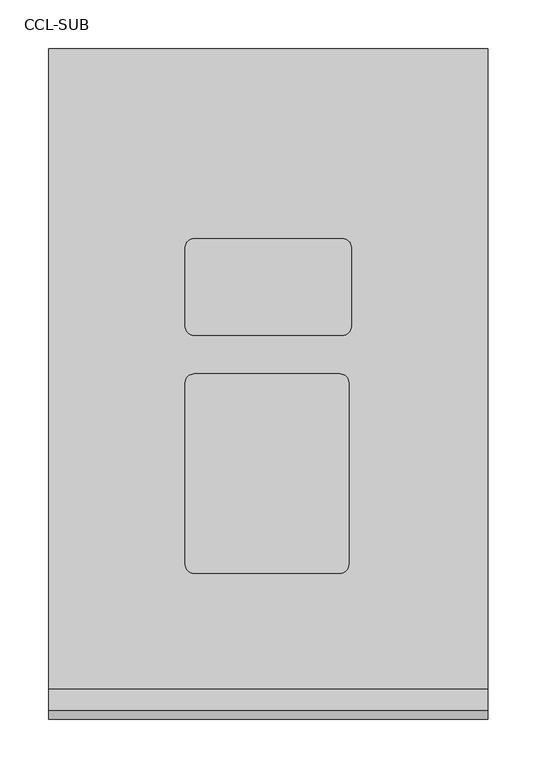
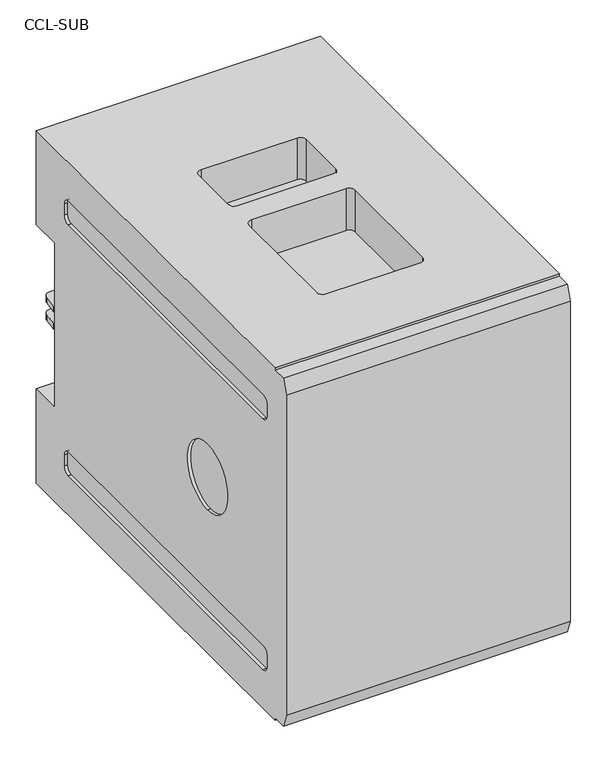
"""IFC4 building model written with IfcOpenShell, lengths in millimetres: proxy geometry, d&b CL-Series CCL-SUB : CCL-SUB."""

from ifc_helpers import new_model, si_unit, point, frame, frame_2d, origin, place, context, project, spatial, polyline, circle_curve, trimmed, segment, composite_curve, outline, extrude, source, transform, mapped, element, save
from ifc_brep_helpers import plane_surface, revolved_surface, advanced_brep


def ccl_sub_f7413ddf(model_context):
    return source(origin(), model_context, "Body", "SolidModel", [
        advanced_brep(
        [(2725.0, -36.5494027, 82.0239358), (2725.0, -28.1693754, 59.0), (2725.0, -4.1494027, 59.0), (2725.0, -4.1494027, 55.0), (2725.0, 649.4505973, 55.0), (2725.0, 649.4505973, 212.5), (2725.0, 599.4505973, 212.5), (2725.0, 599.4505973, 487.5), (2725.0, 649.4505973, 487.5), (2725.0, 649.4505973, 645.0), (2725.0, -5.5494027, 645.0), (2725.0, -5.5494027, 641.0), (2725.0, -28.1693754, 641.0), (2725.0, -36.5494027, 617.9760642), (2280.0, 561.7505973, 159.8), (2280.0, 572.2505973, 149.3), (2280.0, 572.2505973, 130.7), (2280.0, 561.7505973, 120.2), (2280.0, 27.1505973, 120.2), (2280.0, 16.6505973, 130.7), (2280.0, 16.6505973, 149.3), (2280.0, 27.1505973, 159.8), (2280.0, 179.4505973, 405.0), (2280.0, 179.4505973, 295.0), (2280.0, 572.2505973, 569.3), (2280.0, 572.2505973, 550.7), (2280.0, 561.7505973, 540.2), (2280.0, 27.1505973, 540.2), (2280.0, 16.6505973, 550.7), (2280.0, 16.6505973, 569.3), (2280.0, 27.1505973, 579.8), (2280.0, 561.7505973, 579.8), (2275.0, 649.4505973, 212.5), (2275.0, 649.4505973, 55.0), (2275.0, -5.5494027, 55.0), (2275.0, -5.5494027, 59.0), (2275.0, -28.1693754, 59.0), (2275.0, -36.5494027, 82.0239358), (2275.0, -36.5494027, 617.9760642), (2275.0, -28.1693754, 641.0), (2275.0, -5.5494027, 641.0), (2275.0, -5.5494027, 645.0), (2275.0, 649.4505973, 645.0), (2275.0, 649.4505973, 487.5), (2275.0, 599.4505973, 487.5), (2275.0, 599.4505973, 212.5), (2275.0, 572.2505973, 149.3), (2275.0, 561.7505973, 159.8), (2275.0, 27.1505973, 159.8), (2275.0, 16.6505973, 149.3), (2275.0, 16.6505973, 130.7), (2275.0, 27.1505973, 120.2), (2275.0, 561.7505973, 120.2), (2275.0, 572.2505973, 130.7), (2275.0, 179.4505973, 295.0), (2275.0, 179.4505973, 405.0), (2275.0, 572.2505973, 550.7), (2275.0, 572.2505973, 569.3), (2275.0, 561.7505973, 579.8), (2275.0, 27.1505973, 579.8), (2275.0, 16.6505973, 569.3), (2275.0, 16.6505973, 550.7), (2275.0, 27.1505973, 540.2), (2275.0, 561.7505973, 540.2), (2459.0, 644.4505973, 568.5), (2469.5, 644.4505973, 579.0), (2570.5, 644.4505973, 579.0), (2581.0, 644.4505973, 568.5), (2581.0, 644.4505973, 524.5), (2570.5, 644.4505973, 514.0), (2469.5, 644.4505973, 514.0), (2459.0, 644.4505973, 524.5), (2459.0, 644.4505973, 131.5), (2459.0, 644.4505973, 175.5), (2469.5, 644.4505973, 186.0), (2570.5, 644.4505973, 186.0), (2581.0, 644.4505973, 175.5), (2581.0, 644.4505973, 131.5), (2570.5, 644.4505973, 121.0), (2469.5, 644.4505973, 121.0), (2423.8, 455.2505973, 575.0), (2414.8, 446.2505973, 575.0), (2414.8, 365.2505973, 575.0), (2423.8, 356.2505973, 575.0), (2575.8, 356.2505973, 575.0), (2584.8, 365.2505973, 575.0), (2584.8, 446.2505973, 575.0), (2575.8, 455.2505973, 575.0), (2423.8, 316.7505973, 575.0), (2414.8, 307.7505973, 575.0), (2414.8, 121.7505973, 575.0), (2423.8, 112.7505973, 575.0), (2573.3, 112.7505973, 575.0), (2582.3, 121.7505973, 575.0), (2582.3, 307.7505973, 575.0), (2573.3, 316.7505973, 575.0), (2469.5, 649.4505973, 579.0), (2459.0, 649.4505973, 568.5), (2459.0, 649.4505973, 524.5), (2469.5, 649.4505973, 514.0), (2570.5, 649.4505973, 514.0), (2581.0, 649.4505973, 524.5), (2581.0, 649.4505973, 568.5), (2570.5, 649.4505973, 579.0), (2280.0, -5.5494027, 59.0), (2280.0, -5.5494027, 55.0), (2280.0, -4.1494027, 55.0), (2280.0, -4.1494027, 59.0), (2585.0, 599.4505973, 475.0), (2335.0, 599.4505973, 475.0), (2322.0, 599.4505973, 462.0), (2322.0, 599.4505973, 394.3424624), (2395.8595546, 599.4505973, 374.5518543), (2598.0, 599.4505973, 374.5518543), (2598.0, 599.4505973, 462.0), (2322.0, 599.4505973, 238.0), (2335.0, 599.4505973, 225.0), (2585.0, 599.4505973, 225.0), (2598.0, 599.4505973, 238.0), (2598.0, 599.4505973, 325.4481457), (2395.8595546, 599.4505973, 325.4481457), (2322.0, 599.4505973, 305.6575376), (2687.3293714, 599.4505973, 399.4918854), (2694.0, 599.4505973, 408.1852178), (2694.0, 599.4505973, 467.0), (2685.0, 599.4505973, 476.0), (2610.0, 599.4505973, 476.0), (2601.0, 599.4505973, 467.0), (2601.0, 599.4505973, 388.0890284), (2612.3293714, 599.4505973, 379.3956959), (2687.3293714, 599.4505973, 300.5081146), (2612.3293714, 599.4505973, 320.6043041), (2601.0, 599.4505973, 311.9109716), (2601.0, 599.4505973, 233.0), (2610.0, 599.4505973, 224.0), (2685.0, 599.4505973, 224.0), (2694.0, 599.4505973, 233.0), (2694.0, 599.4505973, 291.8147822), (2459.0, 649.4505973, 175.5), (2459.0, 649.4505973, 131.5), (2469.5, 649.4505973, 121.0), (2570.5, 649.4505973, 121.0), (2581.0, 649.4505973, 131.5), (2581.0, 649.4505973, 175.5), (2570.5, 649.4505973, 186.0), (2469.5, 649.4505973, 186.0), (2414.8, 446.2505973, 125.0), (2423.8, 455.2505973, 125.0), (2575.8, 455.2505973, 125.0), (2584.8, 446.2505973, 125.0), (2584.8, 365.2505973, 125.0), (2575.8, 356.2505973, 125.0), (2423.8, 356.2505973, 125.0), (2414.8, 365.2505973, 125.0), (2414.8, 307.7505973, 125.0), (2423.8, 316.7505973, 125.0), (2573.3, 316.7505973, 125.0), (2582.3, 307.7505973, 125.0), (2582.3, 121.7505973, 125.0), (2573.3, 112.7505973, 125.0), (2423.8, 112.7505973, 125.0), (2414.8, 121.7505973, 125.0), (2414.8, 446.2505973, 645.0), (2423.8, 455.2505973, 645.0), (2575.8, 455.2505973, 645.0), (2584.8, 446.2505973, 645.0), (2584.8, 365.2505973, 645.0), (2575.8, 356.2505973, 645.0), (2423.8, 356.2505973, 645.0), (2414.8, 365.2505973, 645.0), (2414.8, 307.7505973, 645.0), (2423.8, 316.7505973, 645.0), (2573.3, 316.7505973, 645.0), (2582.3, 307.7505973, 645.0), (2582.3, 121.7505973, 645.0), (2573.3, 112.7505973, 645.0), (2423.8, 112.7505973, 645.0), (2414.8, 121.7505973, 645.0), (2414.8, 446.2505973, 55.0), (2414.8, 365.2505973, 55.0), (2423.8, 356.2505973, 55.0), (2575.8, 356.2505973, 55.0), (2584.8, 365.2505973, 55.0), (2584.8, 446.2505973, 55.0), (2575.8, 455.2505973, 55.0), (2423.8, 455.2505973, 55.0), (2414.8, 307.7505973, 55.0), (2414.8, 121.7505973, 55.0), (2423.8, 112.7505973, 55.0), (2573.3, 112.7505973, 55.0), (2582.3, 121.7505973, 55.0), (2582.3, 307.7505973, 55.0), (2573.3, 316.7505973, 55.0), (2423.8, 316.7505973, 55.0), (2335.0, 594.4505973, 475.0), (2585.0, 594.4505973, 475.0), (2598.0, 594.4505973, 462.0), (2598.0, 594.4505973, 374.5518543), (2395.8595546, 594.4505973, 374.5518543), (2322.0, 594.4505973, 394.3424624), (2322.0, 594.4505973, 462.0), (2335.0, 594.4505973, 225.0), (2322.0, 594.4505973, 238.0), (2322.0, 594.4505973, 305.6575376), (2395.8595546, 594.4505973, 325.4481457), (2598.0, 594.4505973, 325.4481457), (2598.0, 594.4505973, 238.0), (2585.0, 594.4505973, 225.0), (2694.0, 594.4505973, 408.1852178), (2687.3293714, 594.4505973, 399.4918854), (2612.3293714, 594.4505973, 379.3956959), (2601.0, 594.4505973, 388.0890284), (2601.0, 594.4505973, 467.0), (2610.0, 594.4505973, 476.0), (2685.0, 594.4505973, 476.0), (2694.0, 594.4505973, 467.0), (2612.3293714, 594.4505973, 320.6043041), (2687.3293714, 594.4505973, 300.5081146), (2694.0, 594.4505973, 291.8147822), (2694.0, 594.4505973, 233.0), (2685.0, 594.4505973, 224.0), (2610.0, 594.4505973, 224.0), (2601.0, 594.4505973, 233.0), (2601.0, 594.4505973, 311.9109716)],
        [
            (0, 1),
            (1, 2),
            (2, 3),
            (3, 4),
            (4, 5),
            (5, 6),
            (6, 7),
            (7, 8),
            (8, 9),
            (9, 10),
            (10, 11),
            (11, 12),
            (12, 13),
            (13, 0),
            (14, 15, circle_curve(frame((2280.0, 561.7505973, 149.3), z_axis=(-1.0, 0.0, 0.0), x_axis=(0.0, 1.0, 0.0)), 10.5)),
            (15, 16),
            (16, 17, circle_curve(frame((2280.0, 561.7505973, 130.7), z_axis=(-1.0, 0.0, 0.0), x_axis=(0.0, 0.0, 1.0)), 10.5)),
            (17, 18),
            (18, 19, circle_curve(frame((2280.0, 27.1505973, 130.7), z_axis=(-1.0, 0.0, 0.0), x_axis=(0.0, 1.0, 0.0)), 10.5)),
            (19, 20),
            (20, 21, circle_curve(frame((2280.0, 27.1505973, 149.3), z_axis=(-1.0, 0.0, 0.0), x_axis=(0.0, 1.0, 0.0)), 10.5)),
            (21, 14),
            (22, 23, circle_curve(frame((2280.0, 179.4505973, 350.0), z_axis=(-1.0, 0.0, 0.0), x_axis=(0.0, 0.0, 1.0)), 55.0)),
            (23, 22, circle_curve(frame((2280.0, 179.4505973, 350.0), z_axis=(-1.0, 0.0, 0.0), x_axis=(0.0, 0.0, 1.0)), 55.0)),
            (24, 25),
            (25, 26, circle_curve(frame((2280.0, 561.7505973, 550.7), z_axis=(-1.0, 0.0, 0.0), x_axis=(0.0, 1.0, 0.0)), 10.5)),
            (26, 27),
            (27, 28, circle_curve(frame((2280.0, 27.1505973, 550.7), z_axis=(-1.0, 0.0, 0.0), x_axis=(0.0, 1.0, 0.0)), 10.5)),
            (28, 29),
            (29, 30, circle_curve(frame((2280.0, 27.1505973, 569.3), z_axis=(-1.0, 0.0, 0.0), x_axis=(0.0, 1.0, 0.0)), 10.5)),
            (30, 31),
            (31, 24, circle_curve(frame((2280.0, 561.7505973, 569.3), z_axis=(-1.0, 0.0, 0.0), x_axis=(0.0, 0.0, -1.0)), 10.5)),
            (32, 33),
            (33, 34),
            (34, 35),
            (35, 36),
            (36, 37),
            (37, 38),
            (38, 39),
            (39, 40),
            (40, 41),
            (41, 42),
            (42, 43),
            (43, 44),
            (44, 45),
            (45, 32),
            (46, 47, circle_curve(frame((2275.0, 561.7505973, 149.3), z_axis=(1.0, 0.0, 0.0), x_axis=(0.0, 1.0, 0.0)), 10.5)),
            (47, 48),
            (48, 49, circle_curve(frame((2275.0, 27.1505973, 149.3), z_axis=(1.0, 0.0, 0.0), x_axis=(0.0, 1.0, 0.0)), 10.5)),
            (49, 50),
            (50, 51, circle_curve(frame((2275.0, 27.1505973, 130.7), z_axis=(1.0, 0.0, 0.0), x_axis=(0.0, 1.0, 0.0)), 10.5)),
            (51, 52),
            (52, 53, circle_curve(frame((2275.0, 561.7505973, 130.7), z_axis=(1.0, 0.0, 0.0), x_axis=(0.0, 0.0, 1.0)), 10.5)),
            (53, 46),
            (54, 55, circle_curve(frame((2275.0, 179.4505973, 350.0), z_axis=(1.0, 0.0, 0.0), x_axis=(0.0, 0.0, 1.0)), 55.0)),
            (55, 54, circle_curve(frame((2275.0, 179.4505973, 350.0), z_axis=(1.0, 0.0, 0.0), x_axis=(0.0, 0.0, 1.0)), 55.0)),
            (56, 57),
            (57, 58, circle_curve(frame((2275.0, 561.7505973, 569.3), z_axis=(1.0, 0.0, 0.0), x_axis=(0.0, 0.0, -1.0)), 10.5)),
            (58, 59),
            (59, 60, circle_curve(frame((2275.0, 27.1505973, 569.3), z_axis=(1.0, 0.0, 0.0), x_axis=(0.0, 1.0, 0.0)), 10.5)),
            (60, 61),
            (61, 62, circle_curve(frame((2275.0, 27.1505973, 550.7), z_axis=(1.0, 0.0, 0.0), x_axis=(0.0, 1.0, 0.0)), 10.5)),
            (62, 63),
            (63, 56, circle_curve(frame((2275.0, 561.7505973, 550.7), z_axis=(1.0, 0.0, 0.0), x_axis=(0.0, 1.0, 0.0)), 10.5)),
            (46, 15),
            (14, 47),
            (21, 48),
            (20, 49),
            (19, 50),
            (18, 51),
            (17, 52),
            (53, 16),
            (64, 65, circle_curve(frame((2469.5, 644.4505973, 568.5), z_axis=(0.0, 1.0, 0.0), x_axis=(0.0, 0.0, 1.0)), 10.5)),
            (65, 66),
            (66, 67, circle_curve(frame((2570.5, 644.4505973, 568.5), z_axis=(0.0, 1.0, 0.0), x_axis=(0.0, 0.0, 1.0)), 10.5)),
            (67, 68),
            (68, 69, circle_curve(frame((2570.5, 644.4505973, 524.5), z_axis=(0.0, 1.0, 0.0), x_axis=(0.0, 0.0, 1.0)), 10.5)),
            (69, 70),
            (70, 71, circle_curve(frame((2469.5, 644.4505973, 524.5), z_axis=(0.0, 1.0, 0.0), x_axis=(0.0, 0.0, 1.0)), 10.5)),
            (71, 64),
            (72, 73),
            (73, 74, circle_curve(frame((2469.5, 644.4505973, 175.5), z_axis=(0.0, 1.0, 0.0), x_axis=(0.0, 0.0, -1.0)), 10.5)),
            (74, 75),
            (75, 76, circle_curve(frame((2570.5, 644.4505973, 175.5), z_axis=(0.0, 1.0, 0.0), x_axis=(0.0, 0.0, -1.0)), 10.5)),
            (76, 77),
            (77, 78, circle_curve(frame((2570.5, 644.4505973, 131.5), z_axis=(0.0, 1.0, 0.0), x_axis=(0.0, 0.0, -1.0)), 10.5)),
            (78, 79),
            (79, 72, circle_curve(frame((2469.5, 644.4505973, 131.5), z_axis=(0.0, 1.0, 0.0), x_axis=(0.0, 0.0, -1.0)), 10.5)),
            (13, 38),
            (37, 0),
            (80, 81, circle_curve(frame((2423.8, 446.2505973, 575.0), z_axis=(0.0, 0.0, 1.0), x_axis=(0.0, 1.0, 0.0)), 9.0)),
            (81, 82),
            (82, 83, circle_curve(frame((2423.8, 365.2505973, 575.0), z_axis=(0.0, 0.0, 1.0), x_axis=(0.0, 1.0, 0.0)), 9.0)),
            (83, 84),
            (84, 85, circle_curve(frame((2575.8, 365.2505973, 575.0), z_axis=(0.0, 0.0, 1.0), x_axis=(0.0, 1.0, 0.0)), 9.0)),
            (85, 86),
            (86, 87, circle_curve(frame((2575.8, 446.2505973, 575.0), z_axis=(0.0, 0.0, 1.0), x_axis=(0.0, 1.0, 0.0)), 9.0)),
            (87, 80),
            (88, 89, circle_curve(frame((2423.8, 307.7505973, 575.0), z_axis=(0.0, 0.0, 1.0), x_axis=(-1.0, 0.0, 0.0)), 9.0)),
            (89, 90),
            (90, 91, circle_curve(frame((2423.8, 121.7505973, 575.0), z_axis=(0.0, 0.0, 1.0), x_axis=(-1.0, 0.0, 0.0)), 9.0)),
            (91, 92),
            (92, 93, circle_curve(frame((2573.3, 121.7505973, 575.0), z_axis=(0.0, 0.0, 1.0), x_axis=(1.0, 0.0, 0.0)), 9.0)),
            (93, 94),
            (94, 95, circle_curve(frame((2573.3, 307.7505973, 575.0), z_axis=(0.0, 0.0, 1.0), x_axis=(1.0, 0.0, 0.0)), 9.0)),
            (95, 88),
            (8, 43),
            (42, 9),
            (96, 97, circle_curve(frame((2469.5, 649.4505973, 568.5), z_axis=(0.0, -1.0, 0.0), x_axis=(0.0, 0.0, 1.0)), 10.5)),
            (97, 98),
            (98, 99, circle_curve(frame((2469.5, 649.4505973, 524.5), z_axis=(0.0, -1.0, 0.0), x_axis=(0.0, 0.0, 1.0)), 10.5)),
            (99, 100),
            (100, 101, circle_curve(frame((2570.5, 649.4505973, 524.5), z_axis=(0.0, -1.0, 0.0), x_axis=(0.0, 0.0, 1.0)), 10.5)),
            (101, 102),
            (102, 103, circle_curve(frame((2570.5, 649.4505973, 568.5), z_axis=(0.0, -1.0, 0.0), x_axis=(0.0, 0.0, 1.0)), 10.5)),
            (103, 96),
            (54, 23),
            (22, 55),
            (104, 105),
            (105, 106),
            (106, 107),
            (107, 104),
            (104, 35),
            (34, 105),
            (107, 2),
            (1, 36),
            (56, 25),
            (24, 57),
            (31, 58),
            (30, 59),
            (29, 60),
            (28, 61),
            (27, 62),
            (26, 63),
            (12, 39),
            (11, 40),
            (7, 44),
            (6, 45),
            (108, 109),
            (109, 110, circle_curve(frame((2335.0, 599.4505973, 462.0), z_axis=(0.0, -1.0, 0.0), x_axis=(0.0, 0.0, 1.0)), 13.0)),
            (110, 111),
            (111, 112),
            (112, 113),
            (113, 114),
            (114, 108, circle_curve(frame((2585.0, 599.4505973, 462.0), z_axis=(0.0, -1.0, 0.0), x_axis=(0.0, 0.0, 1.0)), 13.0)),
            (115, 116, circle_curve(frame((2335.0, 599.4505973, 238.0), z_axis=(0.0, -1.0, 0.0), x_axis=(0.0, 0.0, -1.0)), 13.0)),
            (116, 117),
            (117, 118, circle_curve(frame((2585.0, 599.4505973, 238.0), z_axis=(0.0, -1.0, 0.0), x_axis=(0.0, 0.0, -1.0)), 13.0)),
            (118, 119),
            (119, 120),
            (120, 121),
            (121, 115),
            (122, 123, circle_curve(frame((2685.0, 599.4505973, 408.1852178), z_axis=(0.0, -1.0, 0.0), x_axis=(0.0, 0.0, 1.0)), 9.0)),
            (123, 124),
            (124, 125, circle_curve(frame((2685.0, 599.4505973, 467.0), z_axis=(0.0, -1.0, 0.0), x_axis=(0.0, 0.0, 1.0)), 9.0)),
            (125, 126),
            (126, 127, circle_curve(frame((2610.0, 599.4505973, 467.0), z_axis=(0.0, -1.0, 0.0), x_axis=(0.0, 0.0, 1.0)), 9.0)),
            (127, 128),
            (128, 129, circle_curve(frame((2610.0, 599.4505973, 388.0890284), z_axis=(0.0, -1.0, 0.0), x_axis=(0.0, 0.0, 1.0)), 9.0)),
            (129, 122),
            (130, 131),
            (131, 132, circle_curve(frame((2610.0, 599.4505973, 311.9109716), z_axis=(0.0, -1.0, 0.0), x_axis=(0.0, 0.0, -1.0)), 9.0)),
            (132, 133),
            (133, 134, circle_curve(frame((2610.0, 599.4505973, 233.0), z_axis=(0.0, -1.0, 0.0), x_axis=(0.0, 0.0, -1.0)), 9.0)),
            (134, 135),
            (135, 136, circle_curve(frame((2685.0, 599.4505973, 233.0), z_axis=(0.0, -1.0, 0.0), x_axis=(0.0, 0.0, -1.0)), 9.0)),
            (136, 137),
            (137, 130, circle_curve(frame((2685.0, 599.4505973, 291.8147822), z_axis=(0.0, -1.0, 0.0), x_axis=(0.0, 0.0, -1.0)), 9.0)),
            (5, 32),
            (4, 33),
            (138, 139),
            (139, 140, circle_curve(frame((2469.5, 649.4505973, 131.5), z_axis=(0.0, -1.0, 0.0), x_axis=(0.0, 0.0, -1.0)), 10.5)),
            (140, 141),
            (141, 142, circle_curve(frame((2570.5, 649.4505973, 131.5), z_axis=(0.0, -1.0, 0.0), x_axis=(0.0, 0.0, -1.0)), 10.5)),
            (142, 143),
            (143, 144, circle_curve(frame((2570.5, 649.4505973, 175.5), z_axis=(0.0, -1.0, 0.0), x_axis=(0.0, 0.0, -1.0)), 10.5)),
            (144, 145),
            (145, 138, circle_curve(frame((2469.5, 649.4505973, 175.5), z_axis=(0.0, -1.0, 0.0), x_axis=(0.0, 0.0, -1.0)), 10.5)),
            (146, 147, circle_curve(frame((2423.8, 446.2505973, 125.0), z_axis=(0.0, 0.0, -1.0), x_axis=(0.0, 1.0, 0.0)), 9.0)),
            (147, 148),
            (148, 149, circle_curve(frame((2575.8, 446.2505973, 125.0), z_axis=(0.0, 0.0, -1.0), x_axis=(0.0, 1.0, 0.0)), 9.0)),
            (149, 150),
            (150, 151, circle_curve(frame((2575.8, 365.2505973, 125.0), z_axis=(0.0, 0.0, -1.0), x_axis=(0.0, 1.0, 0.0)), 9.0)),
            (151, 152),
            (152, 153, circle_curve(frame((2423.8, 365.2505973, 125.0), z_axis=(0.0, 0.0, -1.0), x_axis=(0.0, 1.0, 0.0)), 9.0)),
            (153, 146),
            (154, 155, circle_curve(frame((2423.8, 307.7505973, 125.0), z_axis=(0.0, 0.0, -1.0), x_axis=(-1.0, 0.0, 0.0)), 9.0)),
            (155, 156),
            (156, 157, circle_curve(frame((2573.3, 307.7505973, 125.0), z_axis=(0.0, 0.0, -1.0), x_axis=(1.0, 0.0, 0.0)), 9.0)),
            (157, 158),
            (158, 159, circle_curve(frame((2573.3, 121.7505973, 125.0), z_axis=(0.0, 0.0, -1.0), x_axis=(1.0, 0.0, 0.0)), 9.0)),
            (159, 160),
            (160, 161, circle_curve(frame((2423.8, 121.7505973, 125.0), z_axis=(0.0, 0.0, -1.0), x_axis=(-1.0, 0.0, 0.0)), 9.0)),
            (161, 154),
            (41, 10),
            (162, 163, circle_curve(frame((2423.8, 446.2505973, 645.0), z_axis=(0.0, 0.0, -1.0), x_axis=(0.0, 1.0, 0.0)), 9.0)),
            (163, 164),
            (164, 165, circle_curve(frame((2575.8, 446.2505973, 645.0), z_axis=(0.0, 0.0, -1.0), x_axis=(0.0, 1.0, 0.0)), 9.0)),
            (165, 166),
            (166, 167, circle_curve(frame((2575.8, 365.2505973, 645.0), z_axis=(0.0, 0.0, -1.0), x_axis=(0.0, 1.0, 0.0)), 9.0)),
            (167, 168),
            (168, 169, circle_curve(frame((2423.8, 365.2505973, 645.0), z_axis=(0.0, 0.0, -1.0), x_axis=(0.0, 1.0, 0.0)), 9.0)),
            (169, 162),
            (170, 171, circle_curve(frame((2423.8, 307.7505973, 645.0), z_axis=(0.0, 0.0, -1.0), x_axis=(-1.0, 0.0, 0.0)), 9.0)),
            (171, 172),
            (172, 173, circle_curve(frame((2573.3, 307.7505973, 645.0), z_axis=(0.0, 0.0, -1.0), x_axis=(1.0, 0.0, 0.0)), 9.0)),
            (173, 174),
            (174, 175, circle_curve(frame((2573.3, 121.7505973, 645.0), z_axis=(0.0, 0.0, -1.0), x_axis=(1.0, 0.0, 0.0)), 9.0)),
            (175, 176),
            (176, 177, circle_curve(frame((2423.8, 121.7505973, 645.0), z_axis=(0.0, 0.0, -1.0), x_axis=(-1.0, 0.0, 0.0)), 9.0)),
            (177, 170),
            (162, 81),
            (80, 163),
            (87, 164),
            (86, 165),
            (85, 166),
            (84, 167),
            (83, 168),
            (82, 169),
            (170, 89),
            (88, 171),
            (95, 172),
            (94, 173),
            (93, 174),
            (92, 175),
            (91, 176),
            (90, 177),
            (3, 106),
            (178, 179),
            (179, 180, circle_curve(frame((2423.8, 365.2505973, 55.0), z_axis=(0.0, 0.0, 1.0), x_axis=(0.0, 1.0, 0.0)), 9.0)),
            (180, 181),
            (181, 182, circle_curve(frame((2575.8, 365.2505973, 55.0), z_axis=(0.0, 0.0, 1.0), x_axis=(0.0, 1.0, 0.0)), 9.0)),
            (182, 183),
            (183, 184, circle_curve(frame((2575.8, 446.2505973, 55.0), z_axis=(0.0, 0.0, 1.0), x_axis=(0.0, 1.0, 0.0)), 9.0)),
            (184, 185),
            (185, 178, circle_curve(frame((2423.8, 446.2505973, 55.0), z_axis=(0.0, 0.0, 1.0), x_axis=(0.0, 1.0, 0.0)), 9.0)),
            (186, 187),
            (187, 188, circle_curve(frame((2423.8, 121.7505973, 55.0), z_axis=(0.0, 0.0, 1.0), x_axis=(-1.0, 0.0, 0.0)), 9.0)),
            (188, 189),
            (189, 190, circle_curve(frame((2573.3, 121.7505973, 55.0), z_axis=(0.0, 0.0, 1.0), x_axis=(1.0, 0.0, 0.0)), 9.0)),
            (190, 191),
            (191, 192, circle_curve(frame((2573.3, 307.7505973, 55.0), z_axis=(0.0, 0.0, 1.0), x_axis=(1.0, 0.0, 0.0)), 9.0)),
            (192, 193),
            (193, 186, circle_curve(frame((2423.8, 307.7505973, 55.0), z_axis=(0.0, 0.0, 1.0), x_axis=(-1.0, 0.0, 0.0)), 9.0)),
            (185, 147),
            (146, 178),
            (184, 148),
            (183, 149),
            (182, 150),
            (181, 151),
            (180, 152),
            (179, 153),
            (193, 155),
            (154, 186),
            (192, 156),
            (191, 157),
            (190, 158),
            (189, 159),
            (188, 160),
            (187, 161),
            (64, 97),
            (96, 65),
            (103, 66),
            (102, 67),
            (101, 68),
            (100, 69),
            (99, 70),
            (98, 71),
            (72, 139),
            (138, 73),
            (145, 74),
            (144, 75),
            (143, 76),
            (142, 77),
            (141, 78),
            (140, 79),
            (194, 195),
            (195, 196, circle_curve(frame((2585.0, 594.4505973, 462.0), z_axis=(0.0, 1.0, 0.0), x_axis=(0.0, 0.0, 1.0)), 13.0)),
            (196, 197),
            (197, 198),
            (198, 199),
            (199, 200),
            (200, 194, circle_curve(frame((2335.0, 594.4505973, 462.0), z_axis=(0.0, 1.0, 0.0), x_axis=(0.0, 0.0, 1.0)), 13.0)),
            (201, 202, circle_curve(frame((2335.0, 594.4505973, 238.0), z_axis=(0.0, 1.0, 0.0), x_axis=(0.0, 0.0, -1.0)), 13.0)),
            (202, 203),
            (203, 204),
            (204, 205),
            (205, 206),
            (206, 207, circle_curve(frame((2585.0, 594.4505973, 238.0), z_axis=(0.0, 1.0, 0.0), x_axis=(0.0, 0.0, -1.0)), 13.0)),
            (207, 201),
            (208, 209, circle_curve(frame((2685.0, 594.4505973, 408.1852178), z_axis=(0.0, 1.0, 0.0), x_axis=(0.0, 0.0, 1.0)), 9.0)),
            (209, 210),
            (210, 211, circle_curve(frame((2610.0, 594.4505973, 388.0890284), z_axis=(0.0, 1.0, 0.0), x_axis=(0.0, 0.0, 1.0)), 9.0)),
            (211, 212),
            (212, 213, circle_curve(frame((2610.0, 594.4505973, 467.0), z_axis=(0.0, 1.0, 0.0), x_axis=(0.0, 0.0, 1.0)), 9.0)),
            (213, 214),
            (214, 215, circle_curve(frame((2685.0, 594.4505973, 467.0), z_axis=(0.0, 1.0, 0.0), x_axis=(0.0, 0.0, 1.0)), 9.0)),
            (215, 208),
            (216, 217),
            (217, 218, circle_curve(frame((2685.0, 594.4505973, 291.8147822), z_axis=(0.0, 1.0, 0.0), x_axis=(0.0, 0.0, -1.0)), 9.0)),
            (218, 219),
            (219, 220, circle_curve(frame((2685.0, 594.4505973, 233.0), z_axis=(0.0, 1.0, 0.0), x_axis=(0.0, 0.0, -1.0)), 9.0)),
            (220, 221),
            (221, 222, circle_curve(frame((2610.0, 594.4505973, 233.0), z_axis=(0.0, 1.0, 0.0), x_axis=(0.0, 0.0, -1.0)), 9.0)),
            (222, 223),
            (223, 216, circle_curve(frame((2610.0, 594.4505973, 311.9109716), z_axis=(0.0, 1.0, 0.0), x_axis=(0.0, 0.0, -1.0)), 9.0)),
            (194, 109),
            (108, 195),
            (114, 196),
            (113, 197),
            (112, 198),
            (111, 199),
            (110, 200),
            (201, 116),
            (115, 202),
            (121, 203),
            (120, 204),
            (119, 205),
            (118, 206),
            (117, 207),
            (208, 123),
            (122, 209),
            (129, 210),
            (128, 211),
            (127, 212),
            (126, 213),
            (125, 214),
            (124, 215),
            (216, 131),
            (130, 217),
            (137, 218),
            (136, 219),
            (135, 220),
            (134, 221),
            (133, 222),
            (132, 223),
        ],
        [
            plane_surface(frame((2725.0, 852.7005973, 575.0), z_axis=(1.0, 0.0, 0.0), x_axis=(0.0, -1.0, 0.0))),
            plane_surface(frame((2280.0, 852.7005973, 575.0), z_axis=(-1.0, 0.0, 0.0), x_axis=(0.0, 1.0, 0.0))),
            plane_surface(frame((2275.0, 649.4505973, -434.075233), z_axis=(-1.0, 0.0, 0.0), x_axis=(0.0, 0.0, -1.0))),
            revolved_surface(polyline([(2280.0, 572.2505973, 149.3), (2275.0, 572.2505973, 149.3)]), (2275.0, 561.7505973, 149.3), (1.0, 0.0, 0.0)),
            plane_surface(frame((2275.0, 561.7505973, 159.8), z_axis=(0.0, 0.0, -1.0), x_axis=(1.0, 0.0, 0.0))),
            revolved_surface(polyline([(2280.0, 37.6505973, 149.3), (2275.0, 37.6505973, 149.3)]), (2275.0, 27.1505973, 149.3), (1.0, 0.0, 0.0)),
            plane_surface(frame((2275.0, 16.6505973, 149.3), z_axis=(0.0, 1.0, 0.0), x_axis=(1.0, 0.0, 0.0))),
            revolved_surface(polyline([(2280.0, 37.6505973, 130.7), (2275.0, 37.6505973, 130.7)]), (2275.0, 27.1505973, 130.7), (1.0, 0.0, 0.0)),
            plane_surface(frame((2275.0, 27.1505973, 120.2), z_axis=(0.0, 0.0, 1.0), x_axis=(1.0, 0.0, 0.0))),
            plane_surface(frame((2275.0, 572.2505973, 130.7), z_axis=(0.0, -1.0, 0.0), x_axis=(1.0, 0.0, 0.0))),
            plane_surface(frame((2469.5, 644.4505973, 579.0), z_axis=(0.0, 1.0, 0.0), x_axis=(-1.0, 0.0, 0.0))),
            plane_surface(frame((2280.0, -36.5494027, 125.0), z_axis=(0.0, -1.0, 0.0), x_axis=(1.0, 0.0, 0.0))),
            plane_surface(frame((2280.0, -36.5494027, 575.0), z_axis=(0.0, 0.0, 1.0), x_axis=(1.0, 0.0, 0.0))),
            plane_surface(frame((2280.0, 649.4505973, 575.0), z_axis=(0.0, 1.0, 0.0), x_axis=(1.0, 0.0, 0.0))),
            revolved_surface(polyline([(2280.0, 179.4505973, 405.0), (2275.0, 179.4505973, 405.0)]), (2275.0, 179.4505973, 350.0), (1.0, 0.0, 0.0)),
            plane_surface(frame((2280.0, 649.4505973, -434.075233), z_axis=(1.0, 0.0, 0.0), x_axis=(0.0, 0.0, 1.0))),
            plane_surface(frame((2275.0, -5.5494027, 55.0), z_axis=(0.0, -1.0, 0.0), x_axis=(1.0, 0.0, 0.0))),
            plane_surface(frame((2275.0, -5.5494027, 59.0), z_axis=(0.0, 0.0, -1.0), x_axis=(1.0, 0.0, 0.0))),
            plane_surface(frame((2275.0, -28.1693754, 59.0), z_axis=(0.0, -0.9396926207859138, -0.3420201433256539), x_axis=(1.0, 0.0, 0.0))),
            revolved_surface(polyline([(2280.0, 561.7505973, 141.2), (2275.0, 561.7505973, 141.2)]), (2275.0, 561.7505973, 130.7), (1.0, 0.0, 0.0)),
            plane_surface(frame((2275.0, 572.2505973, 550.7), z_axis=(0.0, -1.0, 0.0), x_axis=(1.0, 0.0, 0.0))),
            revolved_surface(polyline([(2280.0, 561.7505973, 558.8), (2275.0, 561.7505973, 558.8)]), (2275.0, 561.7505973, 569.3), (1.0, 0.0, 0.0)),
            plane_surface(frame((2275.0, 561.7505973, 579.8), z_axis=(0.0, 0.0, -1.0), x_axis=(1.0, 0.0, 0.0))),
            revolved_surface(polyline([(2280.0, 37.6505973, 569.3), (2275.0, 37.6505973, 569.3)]), (2275.0, 27.1505973, 569.3), (1.0, 0.0, 0.0)),
            plane_surface(frame((2275.0, 16.6505973, 569.3), z_axis=(0.0, 1.0, 0.0), x_axis=(1.0, 0.0, 0.0))),
            revolved_surface(polyline([(2280.0, 37.6505973, 550.7), (2275.0, 37.6505973, 550.7)]), (2275.0, 27.1505973, 550.7), (1.0, 0.0, 0.0)),
            plane_surface(frame((2275.0, 27.1505973, 540.2), z_axis=(0.0, 0.0, 1.0), x_axis=(1.0, 0.0, 0.0))),
            revolved_surface(polyline([(2280.0, 572.2505973, 550.7), (2275.0, 572.2505973, 550.7)]), (2275.0, 561.7505973, 550.7), (1.0, 0.0, 0.0)),
            plane_surface(frame((2275.0, -36.5494027, 617.9760642), z_axis=(0.0, -0.9396926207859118, 0.3420201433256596), x_axis=(1.0, 0.0, 0.0))),
            plane_surface(frame((2275.0, -28.1693754, 641.0), z_axis=(0.0, 0.0, 1.0), x_axis=(1.0, 0.0, 0.0))),
            plane_surface(frame((2280.0, 649.4505973, 487.5), z_axis=(0.0, 0.0, -1.0), x_axis=(1.0, 0.0, 0.0))),
            plane_surface(frame((2280.0, 599.4505973, 487.5), z_axis=(0.0, 1.0, 0.0), x_axis=(1.0, 0.0, 0.0))),
            plane_surface(frame((2280.0, 599.4505973, 212.5), z_axis=(0.0, 0.0, 1.0), x_axis=(1.0, 0.0, 0.0))),
            plane_surface(frame((2280.0, 649.4505973, 212.5), z_axis=(0.0, 1.0, 0.0), x_axis=(1.0, 0.0, 0.0))),
            plane_surface(frame((2280.0, 649.4505973, 125.0), z_axis=(0.0, 0.0, -1.0), x_axis=(1.0, 0.0, 0.0))),
            plane_surface(frame((2280.0, 1093.4505973, 645.0), z_axis=(0.0, 0.0, 1.0), x_axis=(0.0, -1.0, 0.0))),
            plane_surface(frame((2725.0, -5.5494027, 575.0), z_axis=(0.0, -1.0, 0.0), x_axis=(0.0, 0.0, 1.0))),
            revolved_surface(polyline([(2423.8, 455.2505973, 645.0), (2423.8, 455.2505973, 575.0)]), (2423.8, 446.2505973, 645.0), (0.0, 0.0, 1.0)),
            plane_surface(frame((2575.8, 455.2505973, 575.0), z_axis=(0.0, -1.0, 0.0), x_axis=(0.0, 0.0, 1.0))),
            revolved_surface(polyline([(2575.8, 455.2505973, 645.0), (2575.8, 455.2505973, 575.0)]), (2575.8, 446.2505973, 645.0), (0.0, 0.0, 1.0)),
            plane_surface(frame((2584.8, 365.2505973, 575.0), z_axis=(-1.0, 0.0, 0.0), x_axis=(0.0, 0.0, 1.0))),
            revolved_surface(polyline([(2575.8, 374.2505973, 645.0), (2575.8, 374.2505973, 575.0)]), (2575.8, 365.2505973, 645.0), (0.0, 0.0, 1.0)),
            plane_surface(frame((2423.8, 356.2505973, 575.0), z_axis=(0.0, 1.0, 0.0), x_axis=(0.0, 0.0, 1.0))),
            revolved_surface(polyline([(2423.8, 374.2505973, 645.0), (2423.8, 374.2505973, 575.0)]), (2423.8, 365.2505973, 645.0), (0.0, 0.0, 1.0)),
            plane_surface(frame((2414.8, 446.2505973, 575.0), z_axis=(1.0, 0.0, 0.0), x_axis=(0.0, 0.0, 1.0))),
            revolved_surface(polyline([(2414.8, 307.7505973, 645.0), (2414.8, 307.7505973, 575.0)]), (2423.8, 307.7505973, 645.0), (0.0, 0.0, 1.0)),
            plane_surface(frame((2573.3, 316.7505973, 575.0), z_axis=(0.0, -1.0, 0.0), x_axis=(0.0, 0.0, 1.0))),
            revolved_surface(polyline([(2582.3, 307.7505973, 645.0), (2582.3, 307.7505973, 575.0)]), (2573.3, 307.7505973, 645.0), (0.0, 0.0, 1.0)),
            plane_surface(frame((2582.3, 121.7505973, 575.0), z_axis=(-1.0, 0.0, 0.0), x_axis=(0.0, 0.0, 1.0))),
            revolved_surface(polyline([(2582.3, 121.7505973, 645.0), (2582.3, 121.7505973, 575.0)]), (2573.3, 121.7505973, 645.0), (0.0, 0.0, 1.0)),
            plane_surface(frame((2423.8, 112.7505973, 575.0), z_axis=(0.0, 1.0, 0.0), x_axis=(0.0, 0.0, 1.0))),
            revolved_surface(polyline([(2414.8, 121.7505973, 645.0), (2414.8, 121.7505973, 575.0)]), (2423.8, 121.7505973, 645.0), (0.0, 0.0, 1.0)),
            plane_surface(frame((2414.8, 307.7505973, 575.0), z_axis=(1.0, 0.0, 0.0), x_axis=(0.0, 0.0, 1.0))),
            plane_surface(frame((2749.8, -4.1494027, 55.0), z_axis=(0.0, 0.0, -1.0), x_axis=(-1.0, 0.0, 0.0))),
            plane_surface(frame((2280.0, -4.1494027, 125.0), z_axis=(0.0, -1.0, 0.0), x_axis=(0.0, 0.0, -1.0))),
            revolved_surface(polyline([(2423.8, 455.2505973, 55.0), (2423.8, 455.2505973, 125.0)]), (2423.8, 446.2505973, 55.0), (0.0, 0.0, -1.0)),
            plane_surface(frame((2423.8, 455.2505973, 125.0), z_axis=(0.0, -1.0, 0.0), x_axis=(0.0, 0.0, -1.0))),
            revolved_surface(polyline([(2575.8, 455.2505973, 55.0), (2575.8, 455.2505973, 125.0)]), (2575.8, 446.2505973, 55.0), (0.0, 0.0, -1.0)),
            plane_surface(frame((2584.8, 446.2505973, 125.0), z_axis=(-1.0, 0.0, 0.0), x_axis=(0.0, 0.0, -1.0))),
            revolved_surface(polyline([(2575.8, 374.2505973, 55.0), (2575.8, 374.2505973, 125.0)]), (2575.8, 365.2505973, 55.0), (0.0, 0.0, -1.0)),
            plane_surface(frame((2575.8, 356.2505973, 125.0), z_axis=(0.0, 1.0, 0.0), x_axis=(0.0, 0.0, -1.0))),
            revolved_surface(polyline([(2423.8, 374.2505973, 55.0), (2423.8, 374.2505973, 125.0)]), (2423.8, 365.2505973, 55.0), (0.0, 0.0, -1.0)),
            plane_surface(frame((2414.8, 365.2505973, 125.0), z_axis=(1.0, 0.0, 0.0), x_axis=(0.0, 0.0, -1.0))),
            revolved_surface(polyline([(2414.8, 307.7505973, 55.0), (2414.8, 307.7505973, 125.0)]), (2423.8, 307.7505973, 55.0), (0.0, 0.0, -1.0)),
            plane_surface(frame((2423.8, 316.7505973, 125.0), z_axis=(0.0, -1.0, 0.0), x_axis=(0.0, 0.0, -1.0))),
            revolved_surface(polyline([(2582.3, 307.7505973, 55.0), (2582.3, 307.7505973, 125.0)]), (2573.3, 307.7505973, 55.0), (0.0, 0.0, -1.0)),
            plane_surface(frame((2582.3, 307.7505973, 125.0), z_axis=(-1.0, 0.0, 0.0), x_axis=(0.0, 0.0, -1.0))),
            revolved_surface(polyline([(2582.3, 121.7505973, 55.0), (2582.3, 121.7505973, 125.0)]), (2573.3, 121.7505973, 55.0), (0.0, 0.0, -1.0)),
            plane_surface(frame((2573.3, 112.7505973, 125.0), z_axis=(0.0, 1.0, 0.0), x_axis=(0.0, 0.0, -1.0))),
            revolved_surface(polyline([(2414.8, 121.7505973, 55.0), (2414.8, 121.7505973, 125.0)]), (2423.8, 121.7505973, 55.0), (0.0, 0.0, -1.0)),
            plane_surface(frame((2414.8, 121.7505973, 125.0), z_axis=(1.0, 0.0, 0.0), x_axis=(0.0, 0.0, -1.0))),
            revolved_surface(polyline([(2469.5, 649.4505973, 579.0), (2469.5, 644.4505973, 579.0)]), (2469.5, 644.4505973, 568.5), (0.0, 1.0, 0.0)),
            plane_surface(frame((2469.5, 649.4505973, 579.0), z_axis=(0.0, 0.0, -1.0), x_axis=(0.0, -1.0, 0.0))),
            revolved_surface(polyline([(2570.5, 649.4505973, 579.0), (2570.5, 644.4505973, 579.0)]), (2570.5, 644.4505973, 568.5), (0.0, 1.0, 0.0)),
            plane_surface(frame((2581.0, 649.4505973, 568.5), z_axis=(-1.0, 0.0, 0.0), x_axis=(0.0, -1.0, 0.0))),
            revolved_surface(polyline([(2570.5, 649.4505973, 535.0), (2570.5, 644.4505973, 535.0)]), (2570.5, 644.4505973, 524.5), (0.0, 1.0, 0.0)),
            plane_surface(frame((2570.5, 649.4505973, 514.0), z_axis=(0.0, 0.0, 1.0), x_axis=(0.0, -1.0, 0.0))),
            revolved_surface(polyline([(2469.5, 649.4505973, 535.0), (2469.5, 644.4505973, 535.0)]), (2469.5, 644.4505973, 524.5), (0.0, 1.0, 0.0)),
            plane_surface(frame((2459.0, 649.4505973, 524.5), z_axis=(1.0, 0.0, 0.0), x_axis=(0.0, -1.0, 0.0))),
            plane_surface(frame((2459.0, 649.4505973, 131.5), z_axis=(1.0, 0.0, 0.0), x_axis=(0.0, -1.0, 0.0))),
            revolved_surface(polyline([(2469.5, 649.4505973, 165.0), (2469.5, 644.4505973, 165.0)]), (2469.5, 649.4505973, 175.5), (0.0, 1.0, 0.0)),
            plane_surface(frame((2469.5, 649.4505973, 186.0), z_axis=(0.0, 0.0, -1.0), x_axis=(0.0, -1.0, 0.0))),
            revolved_surface(polyline([(2570.5, 649.4505973, 165.0), (2570.5, 644.4505973, 165.0)]), (2570.5, 649.4505973, 175.5), (0.0, 1.0, 0.0)),
            plane_surface(frame((2581.0, 649.4505973, 175.5), z_axis=(-1.0, 0.0, 0.0), x_axis=(0.0, -1.0, 0.0))),
            revolved_surface(polyline([(2570.5, 649.4505973, 121.0), (2570.5, 644.4505973, 121.0)]), (2570.5, 649.4505973, 131.5), (0.0, 1.0, 0.0)),
            plane_surface(frame((2570.5, 649.4505973, 121.0), z_axis=(0.0, 0.0, 1.0), x_axis=(0.0, -1.0, 0.0))),
            revolved_surface(polyline([(2469.5, 649.4505973, 121.0), (2469.5, 644.4505973, 121.0)]), (2469.5, 649.4505973, 131.5), (0.0, 1.0, 0.0)),
            plane_surface(frame((2685.0, 594.4505973, 475.0), z_axis=(0.0, 1.0, 0.0), x_axis=(-1.0, 0.0, 0.0))),
            plane_surface(frame((2335.0, 599.4505973, 475.0), z_axis=(0.0, 0.0, -1.0), x_axis=(0.0, -1.0, 0.0))),
            revolved_surface(polyline([(2585.0, 599.4505973, 475.0), (2585.0, 594.4505973, 475.0)]), (2585.0, 594.4505973, 462.0), (0.0, 1.0, 0.0)),
            plane_surface(frame((2598.0, 599.4505973, 462.0), z_axis=(-1.0, 0.0, 0.0), x_axis=(0.0, -1.0, 0.0))),
            plane_surface(frame((2598.0, 599.4505973, 374.5518543), z_axis=(0.0, 0.0, 1.0), x_axis=(0.0, -1.0, 0.0))),
            plane_surface(frame((2395.8595546, 599.4505973, 374.5518543), z_axis=(0.25881904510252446, 0.0, 0.9659258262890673), x_axis=(0.0, -1.0, 0.0))),
            plane_surface(frame((2322.0, 599.4505973, 394.3424624), z_axis=(1.0, 0.0, 0.0), x_axis=(0.0, -1.0, 0.0))),
            revolved_surface(polyline([(2335.0, 599.4505973, 475.0), (2335.0, 594.4505973, 475.0)]), (2335.0, 594.4505973, 462.0), (0.0, 1.0, 0.0)),
            revolved_surface(polyline([(2335.0, 599.4505973, 225.0), (2335.0, 594.4505973, 225.0)]), (2335.0, 599.4505973, 238.0), (0.0, 1.0, 0.0)),
            plane_surface(frame((2322.0, 599.4505973, 238.0), z_axis=(1.0, 0.0, 0.0), x_axis=(0.0, -1.0, 0.0))),
            plane_surface(frame((2322.0, 599.4505973, 305.6575376), z_axis=(0.25881904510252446, 0.0, -0.9659258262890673), x_axis=(0.0, -1.0, 0.0))),
            plane_surface(frame((2395.8595546, 599.4505973, 325.4481457), z_axis=(0.0, 0.0, -1.0), x_axis=(0.0, -1.0, 0.0))),
            plane_surface(frame((2598.0, 599.4505973, 325.4481457), z_axis=(-1.0, 0.0, 0.0), x_axis=(0.0, -1.0, 0.0))),
            revolved_surface(polyline([(2585.0, 599.4505973, 225.0), (2585.0, 594.4505973, 225.0)]), (2585.0, 599.4505973, 238.0), (0.0, 1.0, 0.0)),
            plane_surface(frame((2585.0, 599.4505973, 225.0), z_axis=(0.0, 0.0, 1.0), x_axis=(0.0, -1.0, 0.0))),
            revolved_surface(polyline([(2685.0, 599.4505973, 417.1852178), (2685.0, 594.4505973, 417.1852178)]), (2685.0, 599.4505973, 408.1852178), (0.0, 1.0, 0.0)),
            plane_surface(frame((2687.3293714, 599.4505973, 399.4918854), z_axis=(-0.25881904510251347, 0.0, 0.9659258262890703), x_axis=(0.0, -1.0, 0.0))),
            revolved_surface(polyline([(2610.0, 599.4505973, 397.0890284), (2610.0, 594.4505973, 397.0890284)]), (2610.0, 599.4505973, 388.0890284), (0.0, 1.0, 0.0)),
            plane_surface(frame((2601.0, 599.4505973, 388.0890284), z_axis=(1.0, 0.0, 0.0), x_axis=(0.0, -1.0, 0.0))),
            revolved_surface(polyline([(2610.0, 599.4505973, 476.0), (2610.0, 594.4505973, 476.0)]), (2610.0, 599.4505973, 467.0), (0.0, 1.0, 0.0)),
            plane_surface(frame((2610.0, 599.4505973, 476.0), z_axis=(0.0, 0.0, -1.0), x_axis=(0.0, -1.0, 0.0))),
            revolved_surface(polyline([(2685.0, 599.4505973, 476.0), (2685.0, 594.4505973, 476.0)]), (2685.0, 599.4505973, 467.0), (0.0, 1.0, 0.0)),
            plane_surface(frame((2694.0, 599.4505973, 467.0), z_axis=(-1.0, 0.0, 0.0), x_axis=(0.0, -1.0, 0.0))),
            plane_surface(frame((2612.3293714, 599.4505973, 320.6043041), z_axis=(-0.25881904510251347, 0.0, -0.9659258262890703), x_axis=(0.0, -1.0, 0.0))),
            revolved_surface(polyline([(2685.0, 599.4505973, 282.8147822), (2685.0, 594.4505973, 282.8147822)]), (2685.0, 599.4505973, 291.8147822), (0.0, 1.0, 0.0)),
            plane_surface(frame((2694.0, 599.4505973, 291.8147822), z_axis=(-1.0, 0.0, 0.0), x_axis=(0.0, -1.0, 0.0))),
            revolved_surface(polyline([(2685.0, 599.4505973, 224.0), (2685.0, 594.4505973, 224.0)]), (2685.0, 599.4505973, 233.0), (0.0, 1.0, 0.0)),
            plane_surface(frame((2685.0, 599.4505973, 224.0), z_axis=(0.0, 0.0, 1.0), x_axis=(0.0, -1.0, 0.0))),
            revolved_surface(polyline([(2610.0, 599.4505973, 224.0), (2610.0, 594.4505973, 224.0)]), (2610.0, 599.4505973, 233.0), (0.0, 1.0, 0.0)),
            plane_surface(frame((2601.0, 599.4505973, 233.0), z_axis=(1.0, 0.0, 0.0), x_axis=(0.0, -1.0, 0.0))),
            revolved_surface(polyline([(2610.0, 599.4505973, 302.9109716), (2610.0, 594.4505973, 302.9109716)]), (2610.0, 599.4505973, 311.9109716), (0.0, 1.0, 0.0)),
        ],
        [
            (0, [[1, 2, 3, 4, 5, 6, 7, 8, 9, 10, 11, 12, 13, 14]]),
            (1, [[15, 16, 17, 18, 19, 20, 21, 22]]),
            (1, [[23, 24]]),
            (1, [[25, 26, 27, 28, 29, 30, 31, 32]]),
            (2, [[33, 34, 35, 36, 37, 38, 39, 40, 41, 42, 43, 44, 45, 46], [47, 48, 49, 50, 51, 52, 53, 54], [55, 56], [57, 58, 59, 60, 61, 62, 63, 64]]),
            (3, [[-47, 65, -15, 66]]),
            (4, [[-48, -66, -22, 67]]),
            (5, [[-49, -67, -21, 68]]),
            (6, [[-50, -68, -20, 69]]),
            (7, [[-51, -69, -19, 70]]),
            (8, [[-52, -70, -18, 71]]),
            (9, [[-54, 72, -16, -65]]),
            (10, [[73, 74, 75, 76, 77, 78, 79, 80]]),
            (10, [[81, 82, 83, 84, 85, 86, 87, 88]]),
            (11, [[-14, 89, -38, 90]]),
            (12, [[91, 92, 93, 94, 95, 96, 97, 98]]),
            (12, [[99, 100, 101, 102, 103, 104, 105, 106]]),
            (13, [[-9, 107, -43, 108], [109, 110, 111, 112, 113, 114, 115, 116]]),
            (14, [[-55, 117, -23, 118]]),
            (14, [[-56, -118, -24, -117]]),
            (15, [[119, 120, 121, 122]]),
            (16, [[-119, 123, -35, 124]]),
            (17, [[-36, -123, -122, 125, -2, 126]]),
            (18, [[-90, -37, -126, -1]]),
            (19, [[-53, -71, -17, -72]]),
            (20, [[-57, 127, -25, 128]]),
            (21, [[-58, -128, -32, 129]]),
            (22, [[-59, -129, -31, 130]]),
            (23, [[-60, -130, -30, 131]]),
            (24, [[-61, -131, -29, 132]]),
            (25, [[-62, -132, -28, 133]]),
            (26, [[-63, -133, -27, 134]]),
            (27, [[-64, -134, -26, -127]]),
            (28, [[-39, -89, -13, 135]]),
            (29, [[-40, -135, -12, 136]]),
            (30, [[-8, 137, -44, -107]]),
            (31, [[-7, 138, -45, -137], [139, 140, 141, 142, 143, 144, 145], [146, 147, 148, 149, 150, 151, 152], [153, 154, 155, 156, 157, 158, 159, 160], [161, 162, 163, 164, 165, 166, 167, 168]]),
            (32, [[-6, 169, -46, -138]]),
            (33, [[-5, 170, -33, -169], [171, 172, 173, 174, 175, 176, 177, 178]]),
            (34, [[179, 180, 181, 182, 183, 184, 185, 186]]),
            (34, [[187, 188, 189, 190, 191, 192, 193, 194]]),
            (35, [[-10, -108, -42, 195], [196, 197, 198, 199, 200, 201, 202, 203], [204, 205, 206, 207, 208, 209, 210, 211]]),
            (36, [[-41, -136, -11, -195]]),
            (37, [[-196, 212, -91, 213]]),
            (38, [[-197, -213, -98, 214]]),
            (39, [[-198, -214, -97, 215]]),
            (40, [[-199, -215, -96, 216]]),
            (41, [[-200, -216, -95, 217]]),
            (42, [[-201, -217, -94, 218]]),
            (43, [[-202, -218, -93, 219]]),
            (44, [[-203, -219, -92, -212]]),
            (45, [[-204, 220, -99, 221]]),
            (46, [[-205, -221, -106, 222]]),
            (47, [[-206, -222, -105, 223]]),
            (48, [[-207, -223, -104, 224]]),
            (49, [[-208, -224, -103, 225]]),
            (50, [[-209, -225, -102, 226]]),
            (51, [[-210, -226, -101, 227]]),
            (52, [[-211, -227, -100, -220]]),
            (53, [[-4, 228, -120, -124, -34, -170], [229, 230, 231, 232, 233, 234, 235, 236], [237, 238, 239, 240, 241, 242, 243, 244]]),
            (54, [[-228, -3, -125, -121]]),
            (55, [[-236, 245, -179, 246]]),
            (56, [[-235, 247, -180, -245]]),
            (57, [[-234, 248, -181, -247]]),
            (58, [[-233, 249, -182, -248]]),
            (59, [[-232, 250, -183, -249]]),
            (60, [[-231, 251, -184, -250]]),
            (61, [[-230, 252, -185, -251]]),
            (62, [[-229, -246, -186, -252]]),
            (63, [[-244, 253, -187, 254]]),
            (64, [[-243, 255, -188, -253]]),
            (65, [[-242, 256, -189, -255]]),
            (66, [[-241, 257, -190, -256]]),
            (67, [[-240, 258, -191, -257]]),
            (68, [[-239, 259, -192, -258]]),
            (69, [[-238, 260, -193, -259]]),
            (70, [[-237, -254, -194, -260]]),
            (71, [[-73, 261, -109, 262]]),
            (72, [[-74, -262, -116, 263]]),
            (73, [[-75, -263, -115, 264]]),
            (74, [[-76, -264, -114, 265]]),
            (75, [[-77, -265, -113, 266]]),
            (76, [[-78, -266, -112, 267]]),
            (77, [[-79, -267, -111, 268]]),
            (78, [[-80, -268, -110, -261]]),
            (79, [[-81, 269, -171, 270]]),
            (80, [[-82, -270, -178, 271]]),
            (81, [[-83, -271, -177, 272]]),
            (82, [[-84, -272, -176, 273]]),
            (83, [[-85, -273, -175, 274]]),
            (84, [[-86, -274, -174, 275]]),
            (85, [[-87, -275, -173, 276]]),
            (86, [[-88, -276, -172, -269]]),
            (87, [[277, 278, 279, 280, 281, 282, 283]]),
            (87, [[284, 285, 286, 287, 288, 289, 290]]),
            (87, [[291, 292, 293, 294, 295, 296, 297, 298]]),
            (87, [[299, 300, 301, 302, 303, 304, 305, 306]]),
            (88, [[-277, 307, -139, 308]]),
            (89, [[-278, -308, -145, 309]]),
            (90, [[-279, -309, -144, 310]]),
            (91, [[-280, -310, -143, 311]]),
            (92, [[-281, -311, -142, 312]]),
            (93, [[-282, -312, -141, 313]]),
            (94, [[-283, -313, -140, -307]]),
            (95, [[-284, 314, -146, 315]]),
            (96, [[-285, -315, -152, 316]]),
            (97, [[-286, -316, -151, 317]]),
            (98, [[-287, -317, -150, 318]]),
            (99, [[-288, -318, -149, 319]]),
            (100, [[-289, -319, -148, 320]]),
            (101, [[-290, -320, -147, -314]]),
            (102, [[-291, 321, -153, 322]]),
            (103, [[-292, -322, -160, 323]]),
            (104, [[-293, -323, -159, 324]]),
            (105, [[-294, -324, -158, 325]]),
            (106, [[-295, -325, -157, 326]]),
            (107, [[-296, -326, -156, 327]]),
            (108, [[-297, -327, -155, 328]]),
            (109, [[-298, -328, -154, -321]]),
            (110, [[-299, 329, -161, 330]]),
            (111, [[-300, -330, -168, 331]]),
            (112, [[-301, -331, -167, 332]]),
            (113, [[-302, -332, -166, 333]]),
            (114, [[-303, -333, -165, 334]]),
            (115, [[-304, -334, -164, 335]]),
            (116, [[-305, -335, -163, 336]]),
            (117, [[-306, -336, -162, -329]]),
        ],
    ),
        extrude(outline(composite_curve([segment(polyline([(2282.8, 614.9505973), (2284.8447463, 638.3221547)]), True, "CONTINUOUS"), segment(trimmed(circle_curve(frame_2d((2294.8066933, 637.4505973)), 10.0), [point((2284.8447463, 638.3221547))], [point((2294.8066933, 647.4505973))], False, "CARTESIAN"), True, "CONTINUOUS"), segment(polyline([(2294.8066933, 647.4505973), (2512.7, 647.4505973), (2512.7, 645.7005973)]), True, "CONTINUOUS"), segment(trimmed(circle_curve(frame_2d((2518.2, 645.7005973)), 5.5), [point((2512.7, 645.7005973))], [point((2518.2, 640.2005973))], True, "CARTESIAN"), True, "CONTINUOUS"), segment(polyline([(2518.2, 640.2005973), (2550.2, 640.2005973)]), True, "CONTINUOUS"), segment(trimmed(circle_curve(frame_2d((2550.2, 740.2005973)), 100.0), [point((2550.2, 640.2005973))], [point((2587.5823153, 647.4505973))], True, "CARTESIAN"), True, "CONTINUOUS"), segment(polyline([(2587.5823153, 647.4505973), (2704.7933067, 647.4505973)]), True, "CONTINUOUS"), segment(trimmed(circle_curve(frame_2d((2704.7933067, 637.4505973)), 10.0), [point((2704.7933067, 647.4505973))], [point((2714.7552537, 638.3221547))], False, "CARTESIAN"), True, "CONTINUOUS"), segment(polyline([(2714.7552537, 638.3221547), (2716.8, 614.9505973), (2716.8, 607.9505973), (2282.8, 607.9505973), (2282.8, 614.9505973)]), True, "CONTINUOUS")], self_intersect=False), holes=[composite_curve([segment(trimmed(circle_curve(frame_2d((2318.8, 629.4505973)), 3.65), [point((2318.8, 633.1005973))], [point((2318.8, 625.8005973))], True, "CARTESIAN"), True, "CONTINUOUS"), segment(trimmed(circle_curve(frame_2d((2318.8, 629.4505973)), 3.65), [point((2318.8, 625.8005973))], [point((2318.8, 633.1005973))], True, "CARTESIAN"), True, "CONTINUOUS")], self_intersect=False), composite_curve([segment(trimmed(circle_curve(frame_2d((2330.0, 629.4505973)), 3.65), [point((2330.0, 633.1005973))], [point((2330.0, 625.8005973))], True, "CARTESIAN"), True, "CONTINUOUS"), segment(trimmed(circle_curve(frame_2d((2330.0, 629.4505973)), 3.65), [point((2330.0, 625.8005973))], [point((2330.0, 633.1005973))], True, "CARTESIAN"), True, "CONTINUOUS")], self_intersect=False), composite_curve([segment(trimmed(circle_curve(frame_2d((2531.2, 616.4505973)), 5.2059957), [point((2531.2, 621.656593))], [point((2531.2, 611.2446016))], True, "CARTESIAN"), True, "CONTINUOUS"), segment(trimmed(circle_curve(frame_2d((2531.2, 616.4505973)), 5.2059957), [point((2531.2, 611.2446016))], [point((2531.2, 621.656593))], True, "CARTESIAN"), True, "CONTINUOUS")], self_intersect=False), composite_curve([segment(trimmed(circle_curve(frame_2d((2691.2, 629.4505973)), 7.5), [point((2691.2, 636.9505973))], [point((2691.2, 621.9505973))], True, "CARTESIAN"), True, "CONTINUOUS"), segment(trimmed(circle_curve(frame_2d((2691.2, 629.4505973)), 7.5), [point((2691.2, 621.9505973))], [point((2691.2, 636.9505973))], True, "CARTESIAN"), True, "CONTINUOUS")], self_intersect=False)]), frame((0.0, 0.0, 359.75), z_axis=(0.0, 0.0, 1.0), x_axis=(1.0, 0.0, 0.0)), (0.0, 0.0, 1.0), 9.75),
        extrude(outline(composite_curve([segment(polyline([(2282.8, 614.9505973), (2284.8447463, 638.3221547)]), True, "CONTINUOUS"), segment(trimmed(circle_curve(frame_2d((2294.8066933, 637.4505973)), 10.0), [point((2284.8447463, 638.3221547))], [point((2294.8066933, 647.4505973))], False, "CARTESIAN"), True, "CONTINUOUS"), segment(polyline([(2294.8066933, 647.4505973), (2512.7, 647.4505973), (2512.7, 645.7005973)]), True, "CONTINUOUS"), segment(trimmed(circle_curve(frame_2d((2518.2, 645.7005973)), 5.5), [point((2512.7, 645.7005973))], [point((2518.2, 640.2005973))], True, "CARTESIAN"), True, "CONTINUOUS"), segment(polyline([(2518.2, 640.2005973), (2550.2, 640.2005973)]), True, "CONTINUOUS"), segment(trimmed(circle_curve(frame_2d((2550.2, 740.2005973)), 100.0), [point((2550.2, 640.2005973))], [point((2587.5823153, 647.4505973))], True, "CARTESIAN"), True, "CONTINUOUS"), segment(polyline([(2587.5823153, 647.4505973), (2704.7933067, 647.4505973)]), True, "CONTINUOUS"), segment(trimmed(circle_curve(frame_2d((2704.7933067, 637.4505973)), 10.0), [point((2704.7933067, 647.4505973))], [point((2714.7552537, 638.3221547))], False, "CARTESIAN"), True, "CONTINUOUS"), segment(polyline([(2714.7552537, 638.3221547), (2716.8, 614.9505973), (2716.8, 607.9505973), (2282.8, 607.9505973), (2282.8, 614.9505973)]), True, "CONTINUOUS")], self_intersect=False), holes=[composite_curve([segment(trimmed(circle_curve(frame_2d((2318.8, 629.4505973)), 3.65), [point((2318.8, 633.1005973))], [point((2318.8, 625.8005973))], True, "CARTESIAN"), True, "CONTINUOUS"), segment(trimmed(circle_curve(frame_2d((2318.8, 629.4505973)), 3.65), [point((2318.8, 625.8005973))], [point((2318.8, 633.1005973))], True, "CARTESIAN"), True, "CONTINUOUS")], self_intersect=False), composite_curve([segment(trimmed(circle_curve(frame_2d((2330.0, 629.4505973)), 3.65), [point((2330.0, 633.1005973))], [point((2330.0, 625.8005973))], True, "CARTESIAN"), True, "CONTINUOUS"), segment(trimmed(circle_curve(frame_2d((2330.0, 629.4505973)), 3.65), [point((2330.0, 625.8005973))], [point((2330.0, 633.1005973))], True, "CARTESIAN"), True, "CONTINUOUS")], self_intersect=False), composite_curve([segment(trimmed(circle_curve(frame_2d((2531.2, 616.4505973)), 5.2059957), [point((2531.2, 621.656593))], [point((2531.2, 611.2446016))], True, "CARTESIAN"), True, "CONTINUOUS"), segment(trimmed(circle_curve(frame_2d((2531.2, 616.4505973)), 5.2059957), [point((2531.2, 611.2446016))], [point((2531.2, 621.656593))], True, "CARTESIAN"), True, "CONTINUOUS")], self_intersect=False), composite_curve([segment(trimmed(circle_curve(frame_2d((2691.2, 629.4505973)), 7.5), [point((2691.2, 636.9505973))], [point((2691.2, 621.9505973))], True, "CARTESIAN"), True, "CONTINUOUS"), segment(trimmed(circle_curve(frame_2d((2691.2, 629.4505973)), 7.5), [point((2691.2, 621.9505973))], [point((2691.2, 636.9505973))], True, "CARTESIAN"), True, "CONTINUOUS")], self_intersect=False)]), frame((0.0, 0.0, 330.5), z_axis=(0.0, 0.0, 1.0), x_axis=(1.0, 0.0, 0.0)), (0.0, 0.0, 1.0), 9.75),
    ])


if __name__ == "__main__":
    model = new_model("IFC4")
    model_context = context("Model", 3, world=origin())
    ifc_project = project(units=[si_unit("LENGTHUNIT", "METRE", prefix="MILLI")], contexts=[model_context])
    site = spatial("IfcSite", under=ifc_project)
    building = spatial("IfcBuilding", under=site)
    placement = place(None, origin())
    ccl_sub_shape = ccl_sub_f7413ddf(model_context)
    element("IfcBuildingElementProxy", 1, Name="d&b CL-Series CCL-SUB : CCL-SUB", ObjectType="d&b CL-Series CCL-SUB : CCL-SUB", at=placement, inside=building, context=model_context, shape_type="MappedRepresentation", body=[
        mapped(ccl_sub_shape, transform((0.0, 0.0, 0.0), x_axis=(1.0, 0.0, 0.0), y_axis=(0.0, 1.0, 0.0), z_axis=(0.0, 0.0, 1.0))),
    ])
    save(model, "model.ifc")
